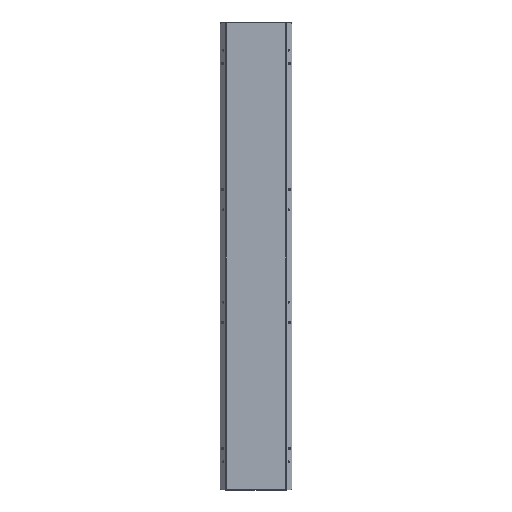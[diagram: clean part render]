
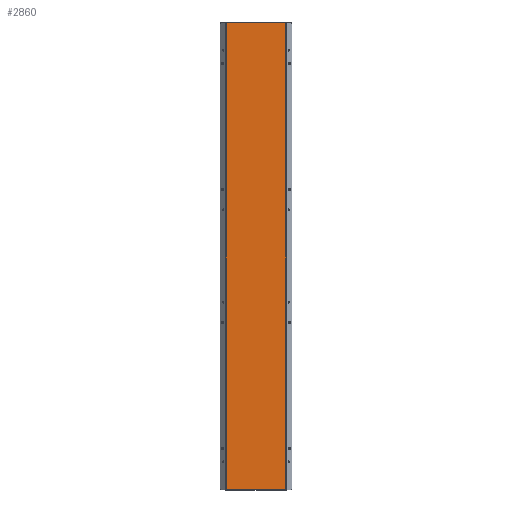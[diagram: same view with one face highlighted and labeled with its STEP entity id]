
A CAD part, top view. The second image highlights one B-rep face of the part: STEP entity #2860.
In plain terms, the highlighted planar face has unit normal (0, 0, 1).
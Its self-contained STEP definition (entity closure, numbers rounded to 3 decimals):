
#23 = PLANE ( 'NONE',  #812 ) ;
#104 = EDGE_LOOP ( 'NONE', ( #2209, #1557, #3061, #7671 ) ) ;
#268 = CARTESIAN_POINT ( 'NONE',  ( 111.5, 870.5, 0. ) ) ;
#292 = CARTESIAN_POINT ( 'NONE',  ( -111.5, 870.5, 0. ) ) ;
#434 = LINE ( 'NONE', #7149, #5949 ) ;
#753 = EDGE_CURVE ( 'NONE', #5922, #2635, #7248, .T. ) ;
#777 = CARTESIAN_POINT ( 'NONE',  ( 111.5, -870.5, 0. ) ) ;
#812 = AXIS2_PLACEMENT_3D ( 'NONE', #2477, #4902, #1702 ) ;
#1557 = ORIENTED_EDGE ( 'NONE', *, *, #1632, .T. ) ;
#1632 = EDGE_CURVE ( 'NONE', #2635, #6807, #5171, .T. ) ;
#1702 = DIRECTION ( 'NONE',  ( -1., 0., 0. ) ) ;
#2185 = DIRECTION ( 'NONE',  ( -1., 0., 0. ) ) ;
#2209 = ORIENTED_EDGE ( 'NONE', *, *, #753, .T. ) ;
#2393 = VECTOR ( 'NONE', #5431, 1000. ) ;
#2477 = CARTESIAN_POINT ( 'NONE',  ( 0., 0., 0. ) ) ;
#2635 = VERTEX_POINT ( 'NONE', #268 ) ;
#2860 = ADVANCED_FACE ( 'NONE', ( #5501 ), #23, .F. ) ;
#3061 = ORIENTED_EDGE ( 'NONE', *, *, #6965, .T. ) ;
#3289 = CARTESIAN_POINT ( 'NONE',  ( -111.5, 870.5, 0. ) ) ;
#3446 = CARTESIAN_POINT ( 'NONE',  ( -111.5, -870.5, 0. ) ) ;
#3599 = CARTESIAN_POINT ( 'NONE',  ( -111.5, -870.5, 0. ) ) ;
#3627 = VERTEX_POINT ( 'NONE', #3446 ) ;
#4113 = DIRECTION ( 'NONE',  ( 0., -1., 0. ) ) ;
#4226 = CARTESIAN_POINT ( 'NONE',  ( 111.5, -870.5, 0. ) ) ;
#4902 = DIRECTION ( 'NONE',  ( 0., 0., -1. ) ) ;
#4917 = LINE ( 'NONE', #3599, #2393 ) ;
#5171 = LINE ( 'NONE', #292, #6023 ) ;
#5431 = DIRECTION ( 'NONE',  ( 1., 0., 0. ) ) ;
#5501 = FACE_OUTER_BOUND ( 'NONE', #104, .T. ) ;
#5922 = VERTEX_POINT ( 'NONE', #777 ) ;
#5949 = VECTOR ( 'NONE', #4113, 1000. ) ;
#6023 = VECTOR ( 'NONE', #2185, 1000. ) ;
#6647 = VECTOR ( 'NONE', #7868, 1000. ) ;
#6807 = VERTEX_POINT ( 'NONE', #3289 ) ;
#6965 = EDGE_CURVE ( 'NONE', #6807, #3627, #434, .T. ) ;
#6997 = EDGE_CURVE ( 'NONE', #3627, #5922, #4917, .T. ) ;
#7149 = CARTESIAN_POINT ( 'NONE',  ( -111.5, -870.5, 0. ) ) ;
#7248 = LINE ( 'NONE', #4226, #6647 ) ;
#7671 = ORIENTED_EDGE ( 'NONE', *, *, #6997, .T. ) ;
#7868 = DIRECTION ( 'NONE',  ( 0., 1., 0. ) ) ;
